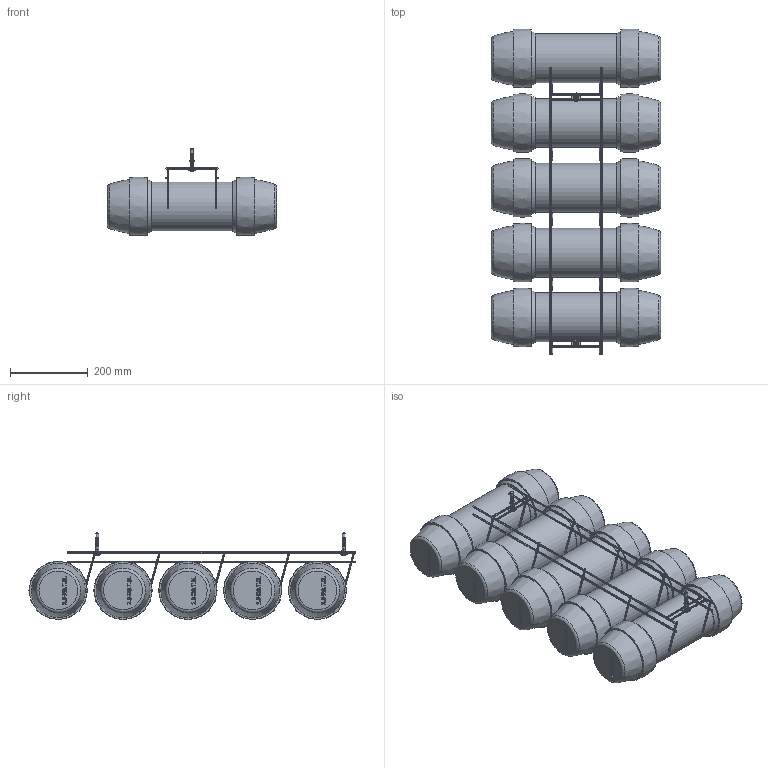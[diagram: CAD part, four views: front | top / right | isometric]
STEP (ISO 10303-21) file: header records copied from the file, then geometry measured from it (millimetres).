
FILE_DESCRIPTION(/* description */ (''),/* implementation_level */ '2;1');
FILE_NAME(/* name */ 'Q:\I_Simples\Library\Inventor\Behälteranlage\19001T00_Rack_160_420.stp',/* time_stamp */ '2023-07-14T11:17:45+02:00',/* author */ ('Ru'),/* organization */ (''),/* preprocessor_version */ 'ST-DEVELOPER v18.1',/* originating_system */ 'Autodesk Inventor 2022',/* authorisation */ '');
FILE_SCHEMA (('AUTOMOTIVE_DESIGN { 1 0 10303 214 3 1 1 }'));
Length unit declared in the file: millimetre
Products named in the file (8): Behälteranlage+Carriers TBH350_A200; Assembly2; 19001T00_Behälteranlage_Dummy_A200; Karosseriescheibe_M7_DIN_9021; 8.4105.0.45; 8.2902.0.08; 8.6100.0.09; 19420T0L-dummy
Assembly tree (15 placements, depth 3):
  Behälteranlage+Carriers TBH350_A200
    Assembly2
      19001T00_Behälteranlage_Dummy_A200
      Karosseriescheibe_M7_DIN_9021  x2
      8.4105.0.45  x2
      8.2902.0.08  x2
      8.6100.0.09  x2
    19420T0L-dummy  x5
Bounding box: 436 x 840.55 x 225.55 mm (x, y, z)
Volume: 30030413.1 mm3; surface area: 1128011.9 mm2
Topology: 14 solids, 14 shells, 1786 faces, 4768 edges, 3102 vertices
Faces by surface type: plane 1244, bspline 305, cylinder 215, torus 12, cone 8, sphere 2
Full cylindrical faces by diameter (mm): 3.5 x2, 5 x2, 5.5 x2, 6.4 x2, 7.4 x2, 7.9 x2, 10 x2, 13 x2, 18 x2, 22 x2, 126 x5
Entity records: 26566 total; most frequent: CARTESIAN_POINT 5961, ORIENTED_EDGE 4300, DIRECTION 4052, EDGE_CURVE 2150, VERTEX_POINT 1379, AXIS2_PLACEMENT_3D 1351, LINE 1350, VECTOR 1350
